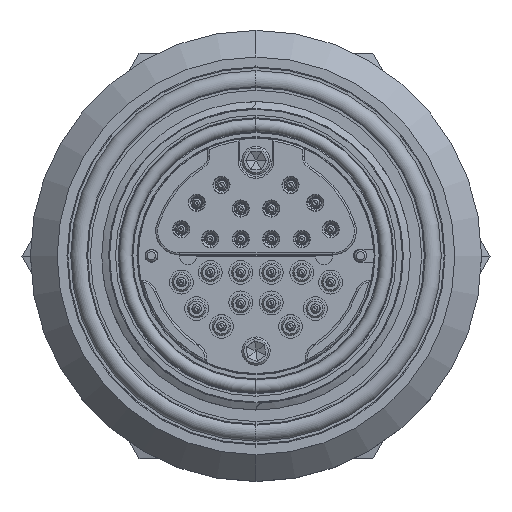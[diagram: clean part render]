
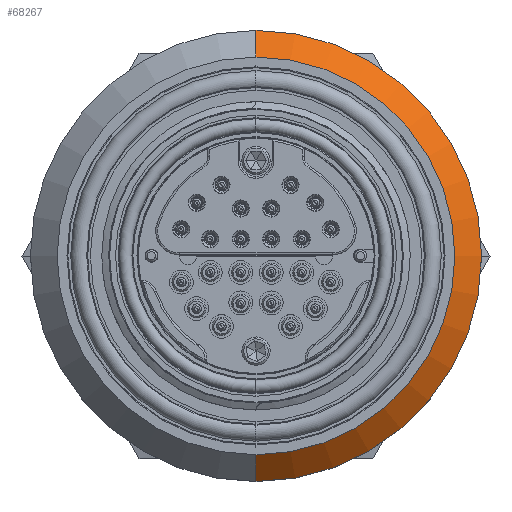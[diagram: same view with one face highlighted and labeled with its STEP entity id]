
A CAD part, top view. The second image highlights one B-rep face of the part: STEP entity #68267.
In plain terms, the highlighted conical face has half-angle 45 degrees and reference radius 30.035 mm.
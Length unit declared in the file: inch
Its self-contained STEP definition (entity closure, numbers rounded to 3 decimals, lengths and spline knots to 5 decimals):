
#1486 = VERTEX_POINT ( 'NONE', #135089 ) ;
#2418 = ORIENTED_EDGE ( 'NONE', *, *, #36650, .T. ) ;
#3231 = CARTESIAN_POINT ( 'NONE',  ( 0., 0., -0.70222 ) ) ;
#10784 = DIRECTION ( 'NONE',  ( 0., 0.707, -0.707 ) ) ;
#11545 = CARTESIAN_POINT ( 'NONE',  ( 0., 1.1825, -0.70222 ) ) ;
#12207 = AXIS2_PLACEMENT_3D ( 'NONE', #3231, #145454, #122231 ) ;
#20213 = CARTESIAN_POINT ( 'NONE',  ( 0., -1.0425, -0.56222 ) ) ;
#29593 = DIRECTION ( 'NONE',  ( 0., 0., -1. ) ) ;
#30348 = FACE_OUTER_BOUND ( 'NONE', #131327, .T. ) ;
#32084 = LINE ( 'NONE', #126372, #44658 ) ;
#33889 = EDGE_CURVE ( 'NONE', #147722, #98283, #118354, .T. ) ;
#36650 = EDGE_CURVE ( 'NONE', #72149, #98283, #32084, .T. ) ;
#44658 = VECTOR ( 'NONE', #151862, 39.37008 ) ;
#54876 = DIRECTION ( 'NONE',  ( 0., 0., -1. ) ) ;
#61929 = ORIENTED_EDGE ( 'NONE', *, *, #69253, .T. ) ;
#68267 = ADVANCED_FACE ( 'NONE', ( #30348 ), #151352, .T. ) ;
#69253 = EDGE_CURVE ( 'NONE', #1486, #72149, #131590, .T. ) ;
#72149 = VERTEX_POINT ( 'NONE', #20213 ) ;
#84681 = AXIS2_PLACEMENT_3D ( 'NONE', #112270, #29593, #123873 ) ;
#87373 = DIRECTION ( 'NONE',  ( 0., 1., 0. ) ) ;
#95014 = LINE ( 'NONE', #11545, #144263 ) ;
#98283 = VERTEX_POINT ( 'NONE', #113545 ) ;
#112270 = CARTESIAN_POINT ( 'NONE',  ( 0., 0., -0.70222 ) ) ;
#113545 = CARTESIAN_POINT ( 'NONE',  ( 0., -1.1825, -0.70222 ) ) ;
#118354 = CIRCLE ( 'NONE', #12207, 1.1825 ) ;
#122231 = DIRECTION ( 'NONE',  ( 0., 1., 0. ) ) ;
#123873 = DIRECTION ( 'NONE',  ( 0., 1., 0. ) ) ;
#124192 = AXIS2_PLACEMENT_3D ( 'NONE', #148433, #54876, #87373 ) ;
#126372 = CARTESIAN_POINT ( 'NONE',  ( 0., -1.1825, -0.70222 ) ) ;
#127366 = EDGE_CURVE ( 'NONE', #1486, #147722, #95014, .T. ) ;
#129535 = ORIENTED_EDGE ( 'NONE', *, *, #33889, .F. ) ;
#131327 = EDGE_LOOP ( 'NONE', ( #61929, #2418, #129535, #132766 ) ) ;
#131590 = CIRCLE ( 'NONE', #124192, 1.0425 ) ;
#132766 = ORIENTED_EDGE ( 'NONE', *, *, #127366, .F. ) ;
#135089 = CARTESIAN_POINT ( 'NONE',  ( 0., 1.0425, -0.56222 ) ) ;
#141405 = CARTESIAN_POINT ( 'NONE',  ( 0., 1.1825, -0.70222 ) ) ;
#144263 = VECTOR ( 'NONE', #10784, 39.37008 ) ;
#145454 = DIRECTION ( 'NONE',  ( 0., 0., -1. ) ) ;
#147722 = VERTEX_POINT ( 'NONE', #141405 ) ;
#148433 = CARTESIAN_POINT ( 'NONE',  ( 0., 0., -0.56222 ) ) ;
#151352 = CONICAL_SURFACE ( 'NONE', #84681, 1.1825, 0.785 ) ;
#151862 = DIRECTION ( 'NONE',  ( 0., -0.707, -0.707 ) ) ;
